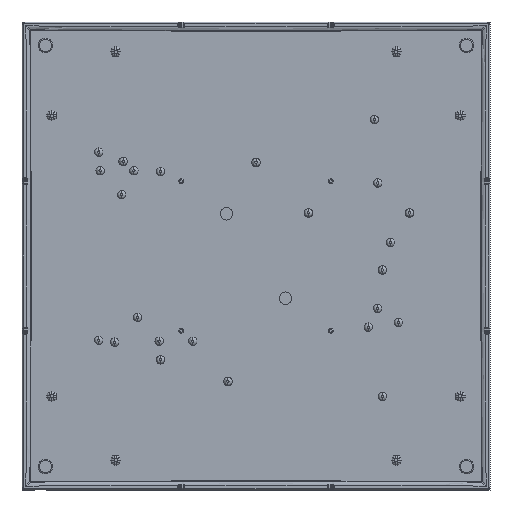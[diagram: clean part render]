
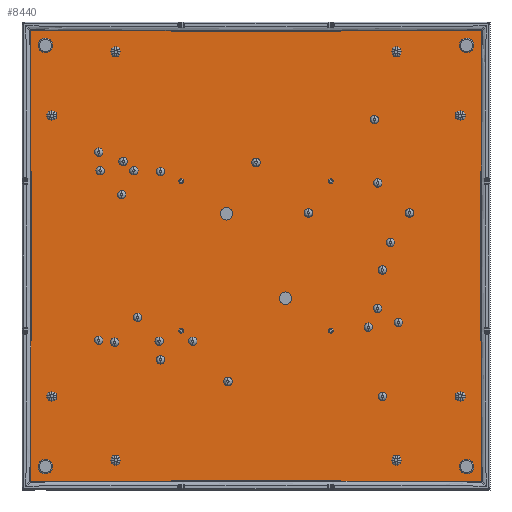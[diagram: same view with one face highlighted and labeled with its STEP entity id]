
A CAD part, front view. The second image highlights one B-rep face of the part: STEP entity #8440.
In plain terms, the highlighted planar face has unit normal (0, -1, 0).
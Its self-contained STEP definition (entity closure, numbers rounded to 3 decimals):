
#1526=CARTESIAN_POINT('',(-119.934,-1.,-120.647));
#1527=CARTESIAN_POINT('',(-119.959,-1.,-120.647));
#1528=CARTESIAN_POINT('',(-120.008,-1.,-120.646));
#1529=CARTESIAN_POINT('',(-120.076,-1.,-120.639));
#1530=CARTESIAN_POINT('',(-120.138,-1.,-120.628));
#1531=CARTESIAN_POINT('',(-120.196,-1.,-120.613));
#1532=CARTESIAN_POINT('',(-120.249,-1.,-120.595));
#1533=CARTESIAN_POINT('',(-120.298,-1.,-120.574));
#1534=CARTESIAN_POINT('',(-120.343,-1.,-120.549));
#1535=CARTESIAN_POINT('',(-120.385,-1.,-120.522));
#1536=CARTESIAN_POINT('',(-120.424,-1.,-120.492));
#1537=CARTESIAN_POINT('',(-120.459,-1.,-120.459));
#1538=CARTESIAN_POINT('',(-120.492,-1.,-120.424));
#1539=CARTESIAN_POINT('',(-120.522,-1.,-120.385));
#1540=CARTESIAN_POINT('',(-120.549,-1.,-120.343));
#1541=CARTESIAN_POINT('',(-120.574,-1.,-120.298));
#1542=CARTESIAN_POINT('',(-120.595,-1.,-120.249));
#1543=CARTESIAN_POINT('',(-120.613,-1.,-120.196));
#1544=CARTESIAN_POINT('',(-120.628,-1.,-120.138));
#1545=CARTESIAN_POINT('',(-120.639,-1.,-120.076));
#1546=CARTESIAN_POINT('',(-120.646,-1.,-120.008));
#1547=CARTESIAN_POINT('',(-120.647,-1.,-119.959));
#1548=CARTESIAN_POINT('',(-120.647,-1.,-119.934));
#1550=CARTESIAN_POINT('',(-120.647,-1.,119.934));
#1551=CARTESIAN_POINT('',(-120.647,-1.,119.959));
#1552=CARTESIAN_POINT('',(-120.646,-1.,120.008));
#1553=CARTESIAN_POINT('',(-120.639,-1.,120.076));
#1554=CARTESIAN_POINT('',(-120.628,-1.,120.138));
#1555=CARTESIAN_POINT('',(-120.613,-1.,120.196));
#1556=CARTESIAN_POINT('',(-120.595,-1.,120.249));
#1557=CARTESIAN_POINT('',(-120.574,-1.,120.298));
#1558=CARTESIAN_POINT('',(-120.549,-1.,120.343));
#1559=CARTESIAN_POINT('',(-120.522,-1.,120.385));
#1560=CARTESIAN_POINT('',(-120.492,-1.,120.424));
#1561=CARTESIAN_POINT('',(-120.459,-1.,120.459));
#1562=CARTESIAN_POINT('',(-120.424,-1.,120.492));
#1563=CARTESIAN_POINT('',(-120.385,-1.,120.522));
#1564=CARTESIAN_POINT('',(-120.343,-1.,120.549));
#1565=CARTESIAN_POINT('',(-120.298,-1.,120.574));
#1566=CARTESIAN_POINT('',(-120.249,-1.,120.595));
#1567=CARTESIAN_POINT('',(-120.196,-1.,120.613));
#1568=CARTESIAN_POINT('',(-120.138,-1.,120.628));
#1569=CARTESIAN_POINT('',(-120.076,-1.,120.639));
#1570=CARTESIAN_POINT('',(-120.008,-1.,120.646));
#1571=CARTESIAN_POINT('',(-119.959,-1.,120.647));
#1572=CARTESIAN_POINT('',(-119.934,-1.,120.647));
#1574=CARTESIAN_POINT('',(0.,-1.,13222.));
#1575=DIRECTION('',(0.,-1.,0.));
#1576=DIRECTION('',(-0.009,0.,-1.));
#1577=AXIS2_PLACEMENT_3D('',#1574,#1575,#1576);
#1579=CARTESIAN_POINT('',(119.934,-1.,120.647));
#1580=CARTESIAN_POINT('',(119.959,-1.,120.647));
#1581=CARTESIAN_POINT('',(120.008,-1.,120.646));
#1582=CARTESIAN_POINT('',(120.076,-1.,120.639));
#1583=CARTESIAN_POINT('',(120.138,-1.,120.628));
#1584=CARTESIAN_POINT('',(120.196,-1.,120.613));
#1585=CARTESIAN_POINT('',(120.249,-1.,120.595));
#1586=CARTESIAN_POINT('',(120.298,-1.,120.574));
#1587=CARTESIAN_POINT('',(120.343,-1.,120.549));
#1588=CARTESIAN_POINT('',(120.385,-1.,120.522));
#1589=CARTESIAN_POINT('',(120.424,-1.,120.492));
#1590=CARTESIAN_POINT('',(120.459,-1.,120.459));
#1591=CARTESIAN_POINT('',(120.492,-1.,120.424));
#1592=CARTESIAN_POINT('',(120.522,-1.,120.385));
#1593=CARTESIAN_POINT('',(120.549,-1.,120.343));
#1594=CARTESIAN_POINT('',(120.574,-1.,120.298));
#1595=CARTESIAN_POINT('',(120.595,-1.,120.249));
#1596=CARTESIAN_POINT('',(120.613,-1.,120.196));
#1597=CARTESIAN_POINT('',(120.628,-1.,120.138));
#1598=CARTESIAN_POINT('',(120.639,-1.,120.076));
#1599=CARTESIAN_POINT('',(120.646,-1.,120.008));
#1600=CARTESIAN_POINT('',(120.647,-1.,119.959));
#1601=CARTESIAN_POINT('',(120.647,-1.,119.934));
#1603=CARTESIAN_POINT('',(120.647,-1.,-119.934));
#1604=CARTESIAN_POINT('',(120.647,-1.,-119.959));
#1605=CARTESIAN_POINT('',(120.646,-1.,-120.008));
#1606=CARTESIAN_POINT('',(120.639,-1.,-120.076));
#1607=CARTESIAN_POINT('',(120.628,-1.,-120.138));
#1608=CARTESIAN_POINT('',(120.613,-1.,-120.196));
#1609=CARTESIAN_POINT('',(120.595,-1.,-120.249));
#1610=CARTESIAN_POINT('',(120.574,-1.,-120.298));
#1611=CARTESIAN_POINT('',(120.549,-1.,-120.343));
#1612=CARTESIAN_POINT('',(120.522,-1.,-120.385));
#1613=CARTESIAN_POINT('',(120.492,-1.,-120.424));
#1614=CARTESIAN_POINT('',(120.459,-1.,-120.459));
#1615=CARTESIAN_POINT('',(120.424,-1.,-120.492));
#1616=CARTESIAN_POINT('',(120.385,-1.,-120.522));
#1617=CARTESIAN_POINT('',(120.343,-1.,-120.549));
#1618=CARTESIAN_POINT('',(120.298,-1.,-120.574));
#1619=CARTESIAN_POINT('',(120.249,-1.,-120.595));
#1620=CARTESIAN_POINT('',(120.196,-1.,-120.613));
#1621=CARTESIAN_POINT('',(120.138,-1.,-120.628));
#1622=CARTESIAN_POINT('',(120.076,-1.,-120.639));
#1623=CARTESIAN_POINT('',(120.008,-1.,-120.646));
#1624=CARTESIAN_POINT('',(119.959,-1.,-120.647));
#1625=CARTESIAN_POINT('',(119.934,-1.,-120.647));
#4115=CARTESIAN_POINT('',(-13222.,-1.,0.));
#4116=DIRECTION('',(0.,1.,0.));
#4117=DIRECTION('',(1.,0.,0.009));
#4118=AXIS2_PLACEMENT_3D('',#4115,#4116,#4117);
#4126=CARTESIAN_POINT('',(0.,-1.,-13222.));
#4127=DIRECTION('',(0.,1.,0.));
#4128=DIRECTION('',(-0.009,0.,1.));
#4129=AXIS2_PLACEMENT_3D('',#4126,#4127,#4128);
#4159=CARTESIAN_POINT('',(13222.,-1.,0.));
#4160=DIRECTION('',(0.,1.,0.));
#4161=DIRECTION('',(-1.,0.,-0.009));
#4162=AXIS2_PLACEMENT_3D('',#4159,#4160,#4161);
#6921=VERTEX_POINT('',#1548);
#6922=VERTEX_POINT('',#1526);
#6926=CARTESIAN_POINT('',(-120.647,-1.,
119.934));
#6927=VERTEX_POINT('',#6926);
#6928=CARTESIAN_POINT('',(119.934,-1.,
-120.647));
#6929=VERTEX_POINT('',#6928);
#6934=VERTEX_POINT('',#1572);
#6937=VERTEX_POINT('',#1601);
#6938=VERTEX_POINT('',#1579);
#6942=VERTEX_POINT('',#1603);
#8417=CARTESIAN_POINT('',(0.,-1.,0.));
#8418=DIRECTION('',(0.,-1.,0.));
#8419=DIRECTION('',(-1.,0.,0.));
#8420=AXIS2_PLACEMENT_3D('',#8417,#8418,#8419);
#8421=PLANE('',#8420);
#8423=ORIENTED_EDGE('',*,*,#8422,.T.);
#8425=ORIENTED_EDGE('',*,*,#8424,.F.);
#8427=ORIENTED_EDGE('',*,*,#8426,.T.);
#8429=ORIENTED_EDGE('',*,*,#8428,.T.);
#8431=ORIENTED_EDGE('',*,*,#8430,.T.);
#8433=ORIENTED_EDGE('',*,*,#8432,.F.);
#8435=ORIENTED_EDGE('',*,*,#8434,.T.);
#8437=ORIENTED_EDGE('',*,*,#8436,.F.);
#8438=EDGE_LOOP('',(#8423,#8425,#8427,#8429,#8431,#8433,#8435,#8437));
#8439=FACE_OUTER_BOUND('',#8438,.F.);
#8440=ADVANCED_FACE('',(#8439),#8421,.T.);
#1549=B_SPLINE_CURVE_WITH_KNOTS('',3,(#1526,#1527,#1528,#1529,#1530,#1531,#1532,
#1533,#1534,#1535,#1536,#1537,#1538,#1539,#1540,#1541,#1542,#1543,#1544,#1545,
#1546,#1547,#1548),.UNSPECIFIED.,.F.,.F.,(4,1,1,1,1,1,1,1,1,1,1,1,1,1,1,1,1,1,1,
1,4),(0.,0.05,0.1,0.15,0.2,0.25,0.3,0.35,0.4,0.45,0.5,
0.55,0.6,0.65,0.7,0.75,0.8,0.85,0.9,0.95,1.),.UNSPECIFIED.);
#1573=B_SPLINE_CURVE_WITH_KNOTS('',3,(#1550,#1551,#1552,#1553,#1554,#1555,#1556,
#1557,#1558,#1559,#1560,#1561,#1562,#1563,#1564,#1565,#1566,#1567,#1568,#1569,
#1570,#1571,#1572),.UNSPECIFIED.,.F.,.F.,(4,1,1,1,1,1,1,1,1,1,1,1,1,1,1,1,1,1,1,
1,4),(0.,0.05,0.1,0.15,0.2,0.25,0.3,0.35,0.4,0.45,0.5,
0.55,0.6,0.65,0.7,0.75,0.8,0.85,0.9,0.95,1.),.UNSPECIFIED.);
#1578=CIRCLE('',#1577,13101.902);
#1602=B_SPLINE_CURVE_WITH_KNOTS('',3,(#1579,#1580,#1581,#1582,#1583,#1584,#1585,
#1586,#1587,#1588,#1589,#1590,#1591,#1592,#1593,#1594,#1595,#1596,#1597,#1598,
#1599,#1600,#1601),.UNSPECIFIED.,.F.,.F.,(4,1,1,1,1,1,1,1,1,1,1,1,1,1,1,1,1,1,1,
1,4),(0.,0.05,0.1,0.15,0.2,0.25,0.3,0.35,0.4,0.45,0.5,
0.55,0.6,0.65,0.7,0.75,0.8,0.85,0.9,0.95,1.),.UNSPECIFIED.);
#1626=B_SPLINE_CURVE_WITH_KNOTS('',3,(#1603,#1604,#1605,#1606,#1607,#1608,#1609,
#1610,#1611,#1612,#1613,#1614,#1615,#1616,#1617,#1618,#1619,#1620,#1621,#1622,
#1623,#1624,#1625),.UNSPECIFIED.,.F.,.F.,(4,1,1,1,1,1,1,1,1,1,1,1,1,1,1,1,1,1,1,
1,4),(0.,0.05,0.1,0.15,0.2,0.25,0.3,0.35,0.4,0.45,0.5,
0.55,0.6,0.65,0.7,0.75,0.8,0.85,0.9,0.95,1.),.UNSPECIFIED.);
#4119=CIRCLE('',#4118,13101.902);
#4130=CIRCLE('',#4129,13101.902);
#4163=CIRCLE('',#4162,13101.902);
#8422=EDGE_CURVE('',#6922,#6921,#1549,.T.);
#8424=EDGE_CURVE('',#6927,#6921,#4119,.T.);
#8426=EDGE_CURVE('',#6927,#6934,#1573,.T.);
#8428=EDGE_CURVE('',#6934,#6938,#1578,.T.);
#8430=EDGE_CURVE('',#6938,#6937,#1602,.T.);
#8432=EDGE_CURVE('',#6942,#6937,#4163,.T.);
#8434=EDGE_CURVE('',#6942,#6929,#1626,.T.);
#8436=EDGE_CURVE('',#6922,#6929,#4130,.T.);
